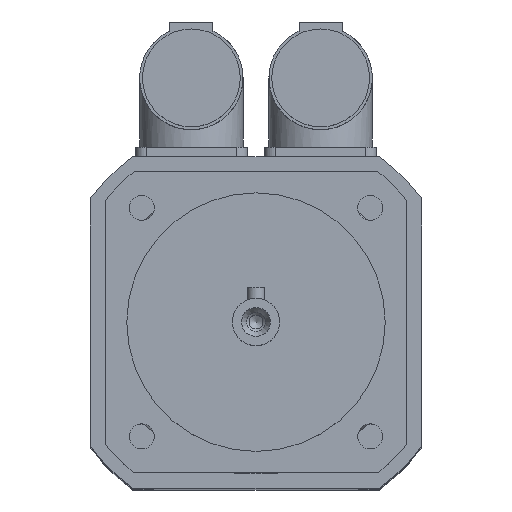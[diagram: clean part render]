
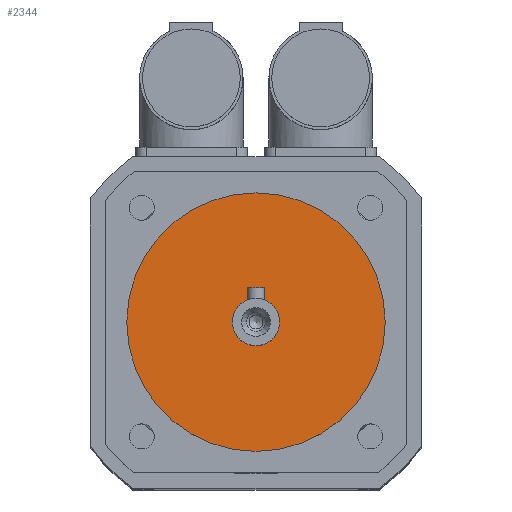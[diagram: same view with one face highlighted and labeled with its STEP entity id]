
A CAD part, top view. The second image highlights one B-rep face of the part: STEP entity #2344.
In plain terms, the highlighted planar face has unit normal (0, 0, 1).
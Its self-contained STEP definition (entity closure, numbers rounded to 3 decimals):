
#472=PLANE('',#2526);
#587=FACE_BOUND('',#805,.T.);
#653=FACE_OUTER_BOUND('',#804,.T.);
#804=EDGE_LOOP('',(#1839));
#805=EDGE_LOOP('',(#1840));
#951=CIRCLE('',#2525,5.5);
#952=CIRCLE('',#2527,30.);
#1114=VERTEX_POINT('',#3730);
#1115=VERTEX_POINT('',#3733);
#1385=EDGE_CURVE('',#1114,#1114,#951,.T.);
#1386=EDGE_CURVE('',#1115,#1115,#952,.T.);
#1839=ORIENTED_EDGE('',*,*,#1386,.F.);
#1840=ORIENTED_EDGE('',*,*,#1385,.T.);
#2344=ADVANCED_FACE('',(#653,#587),#472,.T.);
#2525=AXIS2_PLACEMENT_3D('',#3731,#2946,#2947);
#2526=AXIS2_PLACEMENT_3D('',#3732,#2948,#2949);
#2527=AXIS2_PLACEMENT_3D('',#3734,#2950,#2951);
#2946=DIRECTION('center_axis',(0.,0.,-1.));
#2947=DIRECTION('ref_axis',(1.,0.,0.));
#2948=DIRECTION('center_axis',(0.,0.,1.));
#2949=DIRECTION('ref_axis',(1.,0.,0.));
#2950=DIRECTION('center_axis',(0.,0.,-1.));
#2951=DIRECTION('ref_axis',(1.,0.,0.));
#3730=CARTESIAN_POINT('',(0.,5.5,213.5));
#3731=CARTESIAN_POINT('Origin',(0.,0.,213.5));
#3732=CARTESIAN_POINT('Origin',(0.,30.,213.5));
#3733=CARTESIAN_POINT('',(0.,30.,213.5));
#3734=CARTESIAN_POINT('Origin',(0.,0.,213.5));
